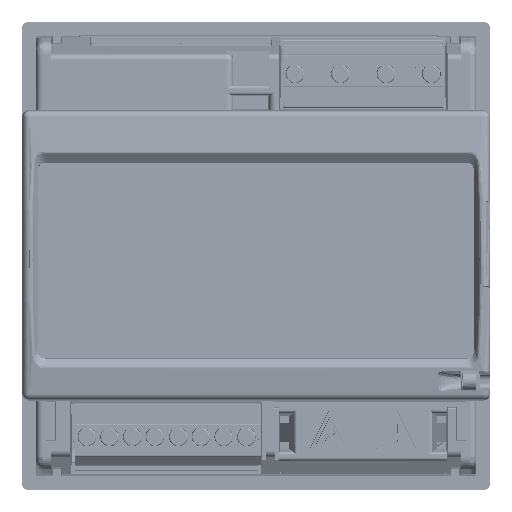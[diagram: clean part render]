
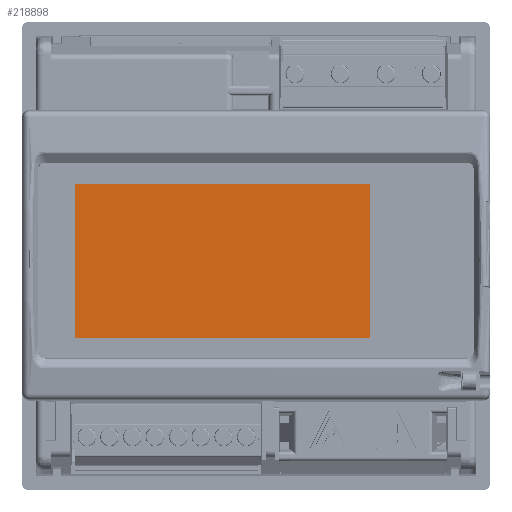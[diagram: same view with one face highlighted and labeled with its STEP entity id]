
A CAD part, top view. The second image highlights one B-rep face of the part: STEP entity #218898.
In plain terms, the highlighted planar face has unit normal (0, 0, 1).
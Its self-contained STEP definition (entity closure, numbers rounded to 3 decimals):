
#14384=FACE_OUTER_BOUND($,#25911,.T.);
#25911=EDGE_LOOP($,(#147949,#147950,#147951,#147952));
#41073=LINE($,#319940,#64612);
#41076=LINE($,#319945,#64615);
#41078=LINE($,#319949,#64617);
#41080=LINE($,#319952,#64619);
#64612=VECTOR($,#257825,45.1);
#64615=VECTOR($,#257830,23.6);
#64617=VECTOR($,#257834,45.1);
#64619=VECTOR($,#257838,23.6);
#87293=VERTEX_POINT($,#319938);
#87294=VERTEX_POINT($,#319939);
#87295=VERTEX_POINT($,#319944);
#87296=VERTEX_POINT($,#319948);
#110154=EDGE_CURVE($,#87293,#87294,#41073,.T.);
#110157=EDGE_CURVE($,#87294,#87295,#41076,.T.);
#110159=EDGE_CURVE($,#87295,#87296,#41078,.T.);
#110161=EDGE_CURVE($,#87296,#87293,#41080,.T.);
#147949=ORIENTED_EDGE($,*,*,#110154,.F.);
#147950=ORIENTED_EDGE($,*,*,#110161,.F.);
#147951=ORIENTED_EDGE($,*,*,#110159,.F.);
#147952=ORIENTED_EDGE($,*,*,#110157,.F.);
#198846=PLANE($,#231562);
#218898=ADVANCED_FACE($,(#14384),#198846,.T.);
#231562=AXIS2_PLACEMENT_3D($,#319953,#257839,#257840);
#257825=DIRECTION($,(-1.,0.,0.));
#257830=DIRECTION($,(0.,1.,0.));
#257834=DIRECTION($,(1.,0.,0.));
#257838=DIRECTION($,(0.,-1.,0.));
#257839=DIRECTION('center_axis',(0.,0.,
1.));
#257840=DIRECTION('ref_axis',(-1.,0.,0.));
#319938=CARTESIAN_POINT('',(17.4,-12.6,55.));
#319939=CARTESIAN_POINT('',(-27.7,-12.6,55.));
#319940=CARTESIAN_POINT($,(17.4,-12.6,55.));
#319944=CARTESIAN_POINT('',(-27.7,11.,55.));
#319945=CARTESIAN_POINT($,(-27.7,-12.6,55.));
#319948=CARTESIAN_POINT('',(17.4,11.,55.));
#319949=CARTESIAN_POINT($,(-27.7,11.,55.));
#319952=CARTESIAN_POINT($,(17.4,11.,55.));
#319953=CARTESIAN_POINT('Origin',(-5.15,-0.8,
55.));
